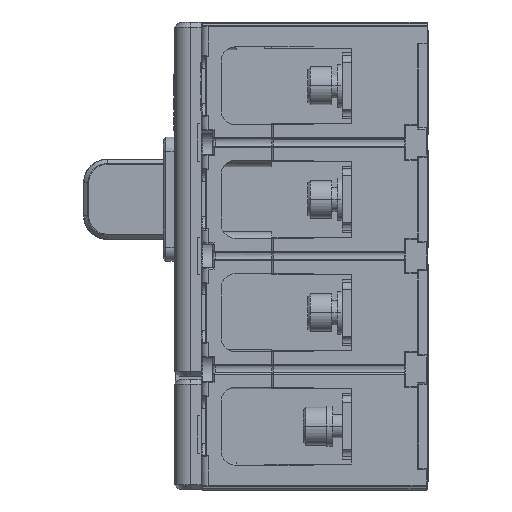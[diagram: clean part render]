
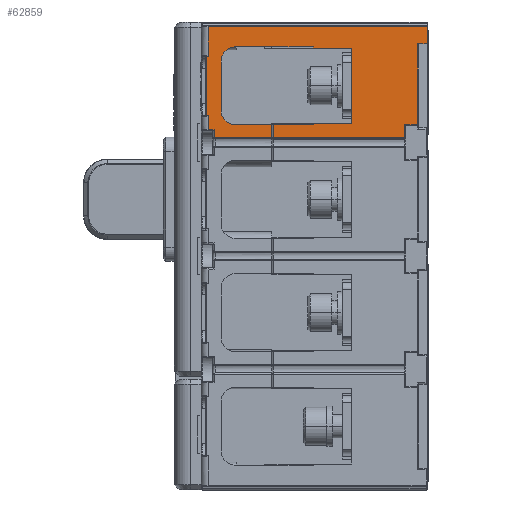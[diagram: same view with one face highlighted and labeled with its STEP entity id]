
A CAD part, left-side view. The second image highlights one B-rep face of the part: STEP entity #62859.
In plain terms, the highlighted planar face has unit normal (-1, 0, 0).
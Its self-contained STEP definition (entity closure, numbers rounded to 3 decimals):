
#13022=DIRECTION('',(0.,0.,-1.));
#13023=VECTOR('',#13022,12.5);
#13024=CARTESIAN_POINT('',(-128.5,47.8,73.));
#13025=LINE('',#13024,#13023);
#13056=DIRECTION('',(0.,1.,0.));
#13057=VECTOR('',#13056,92.7);
#13058=CARTESIAN_POINT('',(-128.5,-44.9,73.));
#13059=LINE('',#13058,#13057);
#13064=DIRECTION('',(0.,1.,0.));
#13065=VECTOR('',#13064,33.);
#13066=CARTESIAN_POINT('',(-128.5,3.3,64.5));
#13067=LINE('',#13066,#13065);
#13068=CARTESIAN_POINT('',(-128.5,36.3,58.5));
#13069=DIRECTION('',(-1.,0.,0.));
#13070=DIRECTION('',(0.,0.,1.));
#13071=AXIS2_PLACEMENT_3D('',#13068,#13069,#13070);
#13073=DIRECTION('',(0.,0.,-1.));
#13074=VECTOR('',#13073,21.);
#13075=CARTESIAN_POINT('',(-128.5,42.3,58.5));
#13076=LINE('',#13075,#13074);
#13077=CARTESIAN_POINT('',(-128.5,36.3,37.5));
#13078=DIRECTION('',(-1.,0.,0.));
#13079=DIRECTION('',(0.,1.,0.));
#13080=AXIS2_PLACEMENT_3D('',#13077,#13078,#13079);
#13082=DIRECTION('',(0.,-1.,0.));
#13083=VECTOR('',#13082,15.5);
#13084=CARTESIAN_POINT('',(-128.5,36.3,31.5));
#13085=LINE('',#13084,#13083);
#13086=DIRECTION('',(0.,0.,-1.));
#13087=VECTOR('',#13086,5.5);
#13088=CARTESIAN_POINT('',(-128.5,20.8,31.5));
#13089=LINE('',#13088,#13087);
#13090=DIRECTION('',(0.,0.,1.));
#13091=VECTOR('',#13090,3.5);
#13092=CARTESIAN_POINT('',(-128.5,45.3,26.));
#13093=LINE('',#13092,#13091);
#13094=DIRECTION('',(0.,1.,0.));
#13095=VECTOR('',#13094,0.5);
#13096=CARTESIAN_POINT('',(-128.5,47.8,35.5));
#13097=LINE('',#13096,#13095);
#13098=DIRECTION('',(0.,-1.,0.));
#13099=VECTOR('',#13098,0.5);
#13100=CARTESIAN_POINT('',(-128.5,48.3,60.5));
#13101=LINE('',#13100,#13099);
#13102=DIRECTION('',(0.,1.,0.));
#13103=VECTOR('',#13102,4.1);
#13104=CARTESIAN_POINT('',(-128.5,-44.9,65.8));
#13105=LINE('',#13104,#13103);
#13106=DIRECTION('',(0.,-1.,0.));
#13107=VECTOR('',#13106,17.);
#13108=CARTESIAN_POINT('',(-128.5,20.3,31.5));
#13109=LINE('',#13108,#13107);
#13110=DIRECTION('',(0.,0.,1.));
#13111=VECTOR('',#13110,0.5);
#13112=CARTESIAN_POINT('',(-128.5,3.3,31.5));
#13113=LINE('',#13112,#13111);
#13114=DIRECTION('',(0.,-1.,0.));
#13115=VECTOR('',#13114,16.2);
#13116=CARTESIAN_POINT('',(-128.5,3.3,32.));
#13117=LINE('',#13116,#13115);
#13118=DIRECTION('',(0.,0.,1.));
#13119=VECTOR('',#13118,32.);
#13120=CARTESIAN_POINT('',(-128.5,-12.9,32.));
#13121=LINE('',#13120,#13119);
#13122=DIRECTION('',(0.,1.,0.));
#13123=VECTOR('',#13122,16.2);
#13124=CARTESIAN_POINT('',(-128.5,-12.9,64.));
#13125=LINE('',#13124,#13123);
#13126=DIRECTION('',(0.,0.,1.));
#13127=VECTOR('',#13126,0.5);
#13128=CARTESIAN_POINT('',(-128.5,3.3,64.));
#13129=LINE('',#13128,#13127);
#13879=DIRECTION('',(0.,0.,1.));
#13880=VECTOR('',#13879,7.2);
#13881=CARTESIAN_POINT('',(-128.5,-44.9,65.8));
#13882=LINE('',#13881,#13880);
#15048=DIRECTION('',(0.,0.,-1.));
#15049=VECTOR('',#15048,6.);
#15050=CARTESIAN_POINT('',(-128.5,47.8,35.5));
#15051=LINE('',#15050,#15049);
#15137=DIRECTION('',(0.,0.,-1.));
#15138=VECTOR('',#15137,25.);
#15139=CARTESIAN_POINT('',(-128.5,48.3,60.5));
#15140=LINE('',#15139,#15138);
#15181=DIRECTION('',(0.,-1.,0.));
#15182=VECTOR('',#15181,2.5);
#15183=CARTESIAN_POINT('',(-128.5,47.8,29.5));
#15184=LINE('',#15183,#15182);
#15216=DIRECTION('',(0.,-1.,0.));
#15217=VECTOR('',#15216,24.5);
#15218=CARTESIAN_POINT('',(-128.5,45.3,26.));
#15219=LINE('',#15218,#15217);
#18019=DIRECTION('',(0.,-1.,0.));
#18020=VECTOR('',#18019,5.5);
#18021=CARTESIAN_POINT('',(-128.5,-35.3,31.6));
#18022=LINE('',#18021,#18020);
#18051=DIRECTION('',(0.,0.,1.));
#18052=VECTOR('',#18051,34.2);
#18053=CARTESIAN_POINT('',(-128.5,-40.8,31.6));
#18054=LINE('',#18053,#18052);
#18059=DIRECTION('',(0.,0.,1.));
#18060=VECTOR('',#18059,5.6);
#18061=CARTESIAN_POINT('',(-128.5,-35.3,26.));
#18062=LINE('',#18061,#18060);
#18095=DIRECTION('',(0.,-1.,0.));
#18096=VECTOR('',#18095,55.6);
#18097=CARTESIAN_POINT('',(-128.5,20.3,26.));
#18098=LINE('',#18097,#18096);
#18209=DIRECTION('',(0.,0.,-1.));
#18210=VECTOR('',#18209,5.5);
#18211=CARTESIAN_POINT('',(-128.5,20.3,31.5));
#18212=LINE('',#18211,#18210);
#49331=CARTESIAN_POINT('',(-128.5,-44.9,65.8));
#49332=VERTEX_POINT('',#49331);
#49333=CARTESIAN_POINT('',(-128.5,-44.9,73.));
#49334=VERTEX_POINT('',#49333);
#51394=CARTESIAN_POINT('',(-128.5,47.8,73.));
#51396=VERTEX_POINT('',#51394);
#51398=CARTESIAN_POINT('',(-128.5,47.8,60.5));
#51399=VERTEX_POINT('',#51398);
#51406=CARTESIAN_POINT('',(-128.5,3.3,64.5));
#51407=CARTESIAN_POINT('',(-128.5,36.3,64.5));
#51408=VERTEX_POINT('',#51406);
#51409=VERTEX_POINT('',#51407);
#51410=CARTESIAN_POINT('',(-128.5,42.3,58.5));
#51411=VERTEX_POINT('',#51410);
#51412=CARTESIAN_POINT('',(-128.5,42.3,37.5));
#51413=VERTEX_POINT('',#51412);
#51414=CARTESIAN_POINT('',(-128.5,36.3,31.5));
#51415=VERTEX_POINT('',#51414);
#51416=CARTESIAN_POINT('',(-128.5,20.8,31.5));
#51417=VERTEX_POINT('',#51416);
#51418=CARTESIAN_POINT('',(-128.5,20.8,26.));
#51419=VERTEX_POINT('',#51418);
#51420=CARTESIAN_POINT('',(-128.5,45.3,26.));
#51421=VERTEX_POINT('',#51420);
#51422=CARTESIAN_POINT('',(-128.5,45.3,29.5));
#51423=VERTEX_POINT('',#51422);
#51424=CARTESIAN_POINT('',(-128.5,47.8,29.5));
#51425=VERTEX_POINT('',#51424);
#51426=CARTESIAN_POINT('',(-128.5,47.8,35.5));
#51427=VERTEX_POINT('',#51426);
#51428=CARTESIAN_POINT('',(-128.5,48.3,35.5));
#51429=VERTEX_POINT('',#51428);
#51430=CARTESIAN_POINT('',(-128.5,48.3,60.5));
#51431=VERTEX_POINT('',#51430);
#51432=CARTESIAN_POINT('',(-128.5,-40.8,65.8));
#51433=VERTEX_POINT('',#51432);
#51434=CARTESIAN_POINT('',(-128.5,-40.8,31.6));
#51435=VERTEX_POINT('',#51434);
#51436=CARTESIAN_POINT('',(-128.5,-35.3,31.6));
#51437=VERTEX_POINT('',#51436);
#51438=CARTESIAN_POINT('',(-128.5,-35.3,26.));
#51439=VERTEX_POINT('',#51438);
#51440=CARTESIAN_POINT('',(-128.5,20.3,26.));
#51441=VERTEX_POINT('',#51440);
#51442=CARTESIAN_POINT('',(-128.5,20.3,31.5));
#51443=VERTEX_POINT('',#51442);
#51444=CARTESIAN_POINT('',(-128.5,3.3,31.5));
#51445=VERTEX_POINT('',#51444);
#51446=CARTESIAN_POINT('',(-128.5,3.3,32.));
#51447=VERTEX_POINT('',#51446);
#51448=CARTESIAN_POINT('',(-128.5,-12.9,32.));
#51449=VERTEX_POINT('',#51448);
#51450=CARTESIAN_POINT('',(-128.5,-12.9,64.));
#51451=VERTEX_POINT('',#51450);
#51452=CARTESIAN_POINT('',(-128.5,3.3,64.));
#51453=VERTEX_POINT('',#51452);
#62798=CARTESIAN_POINT('',(-128.5,1.7,49.5));
#62799=DIRECTION('',(1.,0.,0.));
#62800=DIRECTION('',(0.,-1.,0.));
#62801=AXIS2_PLACEMENT_3D('',#62798,#62799,#62800);
#62802=PLANE('',#62801);
#62804=ORIENTED_EDGE('',*,*,#62803,.T.);
#62806=ORIENTED_EDGE('',*,*,#62805,.T.);
#62808=ORIENTED_EDGE('',*,*,#62807,.T.);
#62810=ORIENTED_EDGE('',*,*,#62809,.T.);
#62812=ORIENTED_EDGE('',*,*,#62811,.T.);
#62814=ORIENTED_EDGE('',*,*,#62813,.T.);
#62816=ORIENTED_EDGE('',*,*,#62815,.F.);
#62818=ORIENTED_EDGE('',*,*,#62817,.T.);
#62820=ORIENTED_EDGE('',*,*,#62819,.F.);
#62822=ORIENTED_EDGE('',*,*,#62821,.F.);
#62824=ORIENTED_EDGE('',*,*,#62823,.T.);
#62826=ORIENTED_EDGE('',*,*,#62825,.F.);
#62828=ORIENTED_EDGE('',*,*,#62827,.T.);
#62829=ORIENTED_EDGE('',*,*,#62741,.F.);
#62830=ORIENTED_EDGE('',*,*,#62789,.F.);
#62832=ORIENTED_EDGE('',*,*,#62831,.F.);
#62834=ORIENTED_EDGE('',*,*,#62833,.T.);
#62836=ORIENTED_EDGE('',*,*,#62835,.F.);
#62838=ORIENTED_EDGE('',*,*,#62837,.F.);
#62840=ORIENTED_EDGE('',*,*,#62839,.F.);
#62842=ORIENTED_EDGE('',*,*,#62841,.F.);
#62844=ORIENTED_EDGE('',*,*,#62843,.F.);
#62846=ORIENTED_EDGE('',*,*,#62845,.T.);
#62848=ORIENTED_EDGE('',*,*,#62847,.T.);
#62850=ORIENTED_EDGE('',*,*,#62849,.T.);
#62852=ORIENTED_EDGE('',*,*,#62851,.T.);
#62854=ORIENTED_EDGE('',*,*,#62853,.T.);
#62856=ORIENTED_EDGE('',*,*,#62855,.T.);
#62857=EDGE_LOOP('',(#62804,#62806,#62808,#62810,#62812,#62814,#62816,#62818,
#62820,#62822,#62824,#62826,#62828,#62829,#62830,#62832,#62834,#62836,#62838,
#62840,#62842,#62844,#62846,#62848,#62850,#62852,#62854,#62856));
#62858=FACE_OUTER_BOUND('',#62857,.F.);
#62859=ADVANCED_FACE('',(#62858),#62802,.F.);
#13072=CIRCLE('',#13071,6.);
#13081=CIRCLE('',#13080,6.);
#62741=EDGE_CURVE('',#51396,#51399,#13025,.T.);
#62789=EDGE_CURVE('',#49334,#51396,#13059,.T.);
#62803=EDGE_CURVE('',#51408,#51409,#13067,.T.);
#62805=EDGE_CURVE('',#51409,#51411,#13072,.T.);
#62807=EDGE_CURVE('',#51411,#51413,#13076,.T.);
#62809=EDGE_CURVE('',#51413,#51415,#13081,.T.);
#62811=EDGE_CURVE('',#51415,#51417,#13085,.T.);
#62813=EDGE_CURVE('',#51417,#51419,#13089,.T.);
#62815=EDGE_CURVE('',#51421,#51419,#15219,.T.);
#62817=EDGE_CURVE('',#51421,#51423,#13093,.T.);
#62819=EDGE_CURVE('',#51425,#51423,#15184,.T.);
#62821=EDGE_CURVE('',#51427,#51425,#15051,.T.);
#62823=EDGE_CURVE('',#51427,#51429,#13097,.T.);
#62825=EDGE_CURVE('',#51431,#51429,#15140,.T.);
#62827=EDGE_CURVE('',#51431,#51399,#13101,.T.);
#62831=EDGE_CURVE('',#49332,#49334,#13882,.T.);
#62833=EDGE_CURVE('',#49332,#51433,#13105,.T.);
#62835=EDGE_CURVE('',#51435,#51433,#18054,.T.);
#62837=EDGE_CURVE('',#51437,#51435,#18022,.T.);
#62839=EDGE_CURVE('',#51439,#51437,#18062,.T.);
#62841=EDGE_CURVE('',#51441,#51439,#18098,.T.);
#62843=EDGE_CURVE('',#51443,#51441,#18212,.T.);
#62845=EDGE_CURVE('',#51443,#51445,#13109,.T.);
#62847=EDGE_CURVE('',#51445,#51447,#13113,.T.);
#62849=EDGE_CURVE('',#51447,#51449,#13117,.T.);
#62851=EDGE_CURVE('',#51449,#51451,#13121,.T.);
#62853=EDGE_CURVE('',#51451,#51453,#13125,.T.);
#62855=EDGE_CURVE('',#51453,#51408,#13129,.T.);
